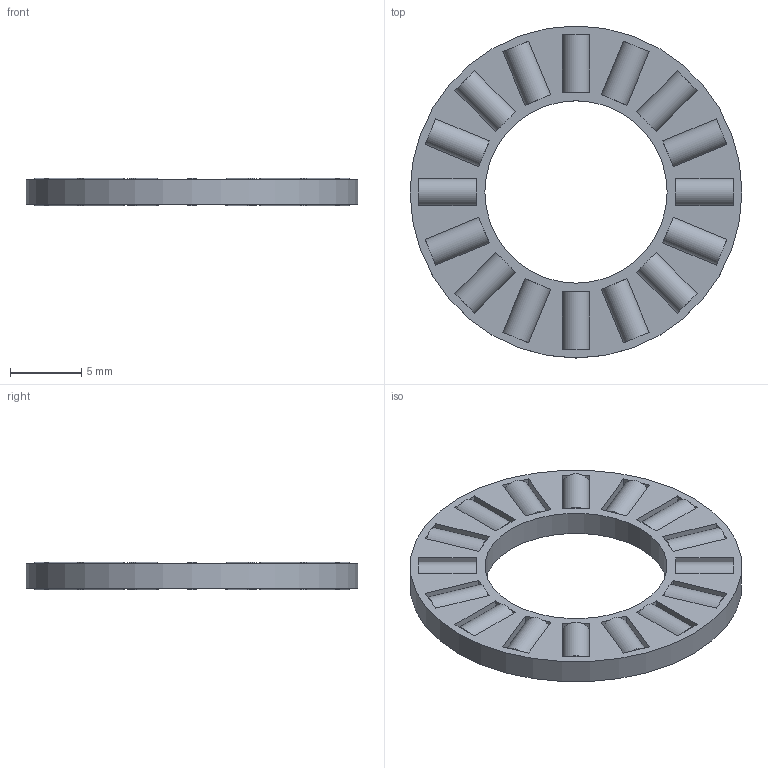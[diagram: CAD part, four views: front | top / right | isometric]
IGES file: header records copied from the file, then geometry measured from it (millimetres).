
Global section: file name: No Iges File Name specified; native system: AutoDesk Inventor R5.0; preprocessor: AutoDesk Inventor Iges Exporter R5.0; author: No Author specified; organization: No Organization specified; date: 20040109.204413; units: inch
Bounding box: 23.3 x 23.3 x 1.96 mm (x, y, z)
Surface area: 1182.4 mm2 (no closed solid volume)
Topology: 0 solids, 0 shells, 292 faces, 1290 edges, 1288 vertices
Faces by surface type: plane 258, revolution 34
